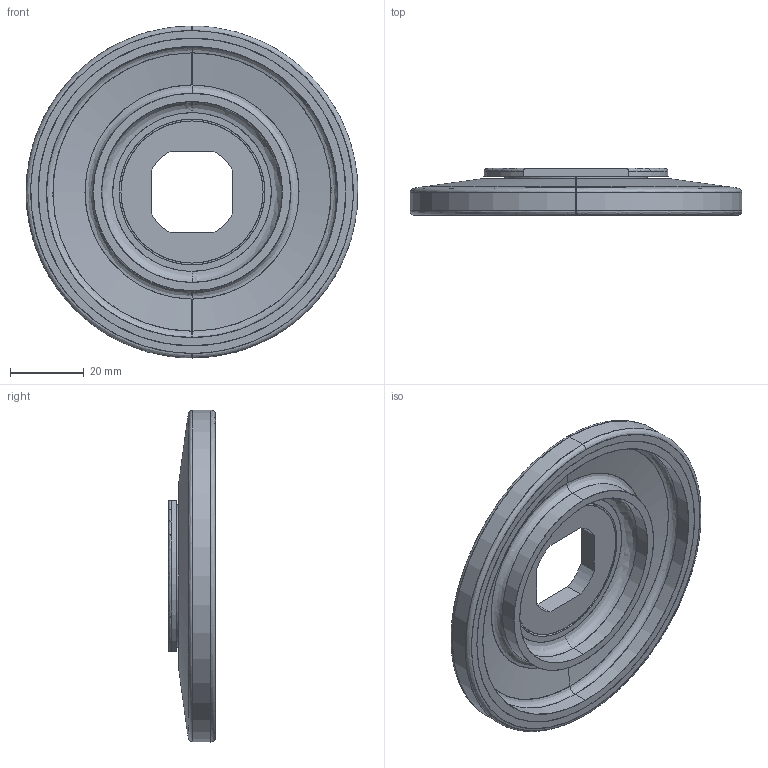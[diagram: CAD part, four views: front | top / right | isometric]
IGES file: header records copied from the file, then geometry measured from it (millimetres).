
Start section: SolidWorks IGES file using analytic representation for surfaces
Global section: file name: C:\Users\MarkoLa\Desktop\IGES\303959_IGES.IGS; native system: SolidWorks 2017; preprocessor: SolidWorks 2017; author: markola; date: 170824.153138; units: millimetre
Bounding box: 90 x 12.75 x 90 mm (x, y, z)
Surface area: 23247.8 mm2 (no closed solid volume)
Topology: 0 solids, 0 shells, 54 faces, 1112 edges, 1112 vertices
Faces by surface type: revolution 28, bspline 26
